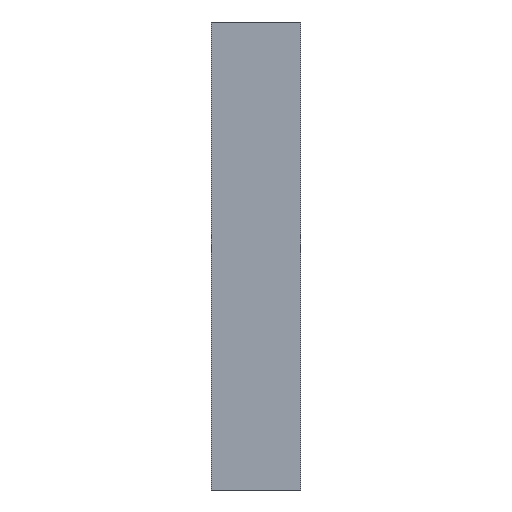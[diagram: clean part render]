
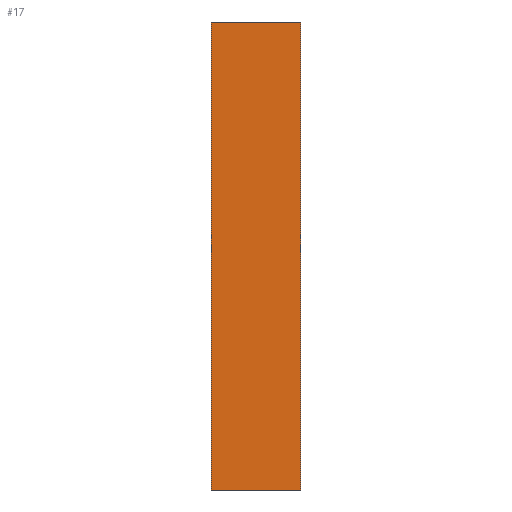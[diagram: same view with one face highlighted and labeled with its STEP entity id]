
A CAD part, front view. The second image highlights one B-rep face of the part: STEP entity #17.
In plain terms, the highlighted planar face has unit normal (0, -1, 0).
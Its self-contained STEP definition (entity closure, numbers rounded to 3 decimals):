
#17 = ADVANCED_FACE('',(#18),#32,.F.);
#18 = FACE_BOUND('',#19,.T.);
#19 = EDGE_LOOP('',(#20,#55,#83,#111));
#20 = ORIENTED_EDGE('',*,*,#21,.T.);
#21 = EDGE_CURVE('',#22,#24,#26,.T.);
#22 = VERTEX_POINT('',#23);
#23 = CARTESIAN_POINT('',(3.,-400.,0.));
#24 = VERTEX_POINT('',#25);
#25 = CARTESIAN_POINT('',(3.,-400.,31.5));
#26 = SURFACE_CURVE('',#27,(#31,#43),.PCURVE_S1.);
#27 = LINE('',#28,#29);
#28 = CARTESIAN_POINT('',(3.,-400.,0.));
#29 = VECTOR('',#30,1.);
#30 = DIRECTION('',(-0.,-0.,1.));
#31 = PCURVE('',#32,#37);
#32 = PLANE('',#33);
#33 = AXIS2_PLACEMENT_3D('',#34,#35,#36);
#34 = CARTESIAN_POINT('',(3.,-400.,0.));
#35 = DIRECTION('',(-0.,1.,-0.));
#36 = DIRECTION('',(1.,0.,0.));
#37 = DEFINITIONAL_REPRESENTATION('',(#38),#42);
#38 = LINE('',#39,#40);
#39 = CARTESIAN_POINT('',(-0.,-0.));
#40 = VECTOR('',#41,1.);
#41 = DIRECTION('',(-0.,-1.));
#42 = ( GEOMETRIC_REPRESENTATION_CONTEXT(2) 
PARAMETRIC_REPRESENTATION_CONTEXT() REPRESENTATION_CONTEXT('2D SPACE',''
  ) );
#43 = PCURVE('',#44,#49);
#44 = PLANE('',#45);
#45 = AXIS2_PLACEMENT_3D('',#46,#47,#48);
#46 = CARTESIAN_POINT('',(3.,400.,0.));
#47 = DIRECTION('',(-1.,-0.,-0.));
#48 = DIRECTION('',(0.,1.,0.));
#49 = DEFINITIONAL_REPRESENTATION('',(#50),#54);
#50 = LINE('',#51,#52);
#51 = CARTESIAN_POINT('',(-800.,0.));
#52 = VECTOR('',#53,1.);
#53 = DIRECTION('',(-0.,-1.));
#54 = ( GEOMETRIC_REPRESENTATION_CONTEXT(2) 
PARAMETRIC_REPRESENTATION_CONTEXT() REPRESENTATION_CONTEXT('2D SPACE',''
  ) );
#55 = ORIENTED_EDGE('',*,*,#56,.T.);
#56 = EDGE_CURVE('',#24,#57,#59,.T.);
#57 = VERTEX_POINT('',#58);
#58 = CARTESIAN_POINT('',(-3.,-400.,31.5));
#59 = SURFACE_CURVE('',#60,(#64,#71),.PCURVE_S1.);
#60 = LINE('',#61,#62);
#61 = CARTESIAN_POINT('',(3.,-400.,31.5));
#62 = VECTOR('',#63,1.);
#63 = DIRECTION('',(-1.,-0.,-0.));
#64 = PCURVE('',#32,#65);
#65 = DEFINITIONAL_REPRESENTATION('',(#66),#70);
#66 = LINE('',#67,#68);
#67 = CARTESIAN_POINT('',(-0.,-31.5));
#68 = VECTOR('',#69,1.);
#69 = DIRECTION('',(-1.,0.));
#70 = ( GEOMETRIC_REPRESENTATION_CONTEXT(2) 
PARAMETRIC_REPRESENTATION_CONTEXT() REPRESENTATION_CONTEXT('2D SPACE',''
  ) );
#71 = PCURVE('',#72,#77);
#72 = PLANE('',#73);
#73 = AXIS2_PLACEMENT_3D('',#74,#75,#76);
#74 = CARTESIAN_POINT('',(0.,0.,31.5));
#75 = DIRECTION('',(-0.,-0.,1.));
#76 = DIRECTION('',(1.,0.,0.));
#77 = DEFINITIONAL_REPRESENTATION('',(#78),#82);
#78 = LINE('',#79,#80);
#79 = CARTESIAN_POINT('',(3.,-400.));
#80 = VECTOR('',#81,1.);
#81 = DIRECTION('',(-1.,0.));
#82 = ( GEOMETRIC_REPRESENTATION_CONTEXT(2) 
PARAMETRIC_REPRESENTATION_CONTEXT() REPRESENTATION_CONTEXT('2D SPACE',''
  ) );
#83 = ORIENTED_EDGE('',*,*,#84,.F.);
#84 = EDGE_CURVE('',#85,#57,#87,.T.);
#85 = VERTEX_POINT('',#86);
#86 = CARTESIAN_POINT('',(-3.,-400.,0.));
#87 = SURFACE_CURVE('',#88,(#92,#99),.PCURVE_S1.);
#88 = LINE('',#89,#90);
#89 = CARTESIAN_POINT('',(-3.,-400.,0.));
#90 = VECTOR('',#91,1.);
#91 = DIRECTION('',(-0.,-0.,1.));
#92 = PCURVE('',#32,#93);
#93 = DEFINITIONAL_REPRESENTATION('',(#94),#98);
#94 = LINE('',#95,#96);
#95 = CARTESIAN_POINT('',(-6.,0.));
#96 = VECTOR('',#97,1.);
#97 = DIRECTION('',(-0.,-1.));
#98 = ( GEOMETRIC_REPRESENTATION_CONTEXT(2) 
PARAMETRIC_REPRESENTATION_CONTEXT() REPRESENTATION_CONTEXT('2D SPACE',''
  ) );
#99 = PCURVE('',#100,#105);
#100 = PLANE('',#101);
#101 = AXIS2_PLACEMENT_3D('',#102,#103,#104);
#102 = CARTESIAN_POINT('',(-3.,-400.,0.));
#103 = DIRECTION('',(1.,-0.,-0.));
#104 = DIRECTION('',(0.,-1.,0.));
#105 = DEFINITIONAL_REPRESENTATION('',(#106),#110);
#106 = LINE('',#107,#108);
#107 = CARTESIAN_POINT('',(-0.,-0.));
#108 = VECTOR('',#109,1.);
#109 = DIRECTION('',(-0.,-1.));
#110 = ( GEOMETRIC_REPRESENTATION_CONTEXT(2) 
PARAMETRIC_REPRESENTATION_CONTEXT() REPRESENTATION_CONTEXT('2D SPACE',''
  ) );
#111 = ORIENTED_EDGE('',*,*,#112,.F.);
#112 = EDGE_CURVE('',#22,#85,#113,.T.);
#113 = SURFACE_CURVE('',#114,(#118,#125),.PCURVE_S1.);
#114 = LINE('',#115,#116);
#115 = CARTESIAN_POINT('',(3.,-400.,0.));
#116 = VECTOR('',#117,1.);
#117 = DIRECTION('',(-1.,-0.,-0.));
#118 = PCURVE('',#32,#119);
#119 = DEFINITIONAL_REPRESENTATION('',(#120),#124);
#120 = LINE('',#121,#122);
#121 = CARTESIAN_POINT('',(-0.,-0.));
#122 = VECTOR('',#123,1.);
#123 = DIRECTION('',(-1.,0.));
#124 = ( GEOMETRIC_REPRESENTATION_CONTEXT(2) 
PARAMETRIC_REPRESENTATION_CONTEXT() REPRESENTATION_CONTEXT('2D SPACE',''
  ) );
#125 = PCURVE('',#126,#131);
#126 = PLANE('',#127);
#127 = AXIS2_PLACEMENT_3D('',#128,#129,#130);
#128 = CARTESIAN_POINT('',(0.,0.,0.));
#129 = DIRECTION('',(-0.,-0.,1.));
#130 = DIRECTION('',(1.,0.,0.));
#131 = DEFINITIONAL_REPRESENTATION('',(#132),#136);
#132 = LINE('',#133,#134);
#133 = CARTESIAN_POINT('',(3.,-400.));
#134 = VECTOR('',#135,1.);
#135 = DIRECTION('',(-1.,0.));
#136 = ( GEOMETRIC_REPRESENTATION_CONTEXT(2) 
PARAMETRIC_REPRESENTATION_CONTEXT() REPRESENTATION_CONTEXT('2D SPACE',''
  ) );
